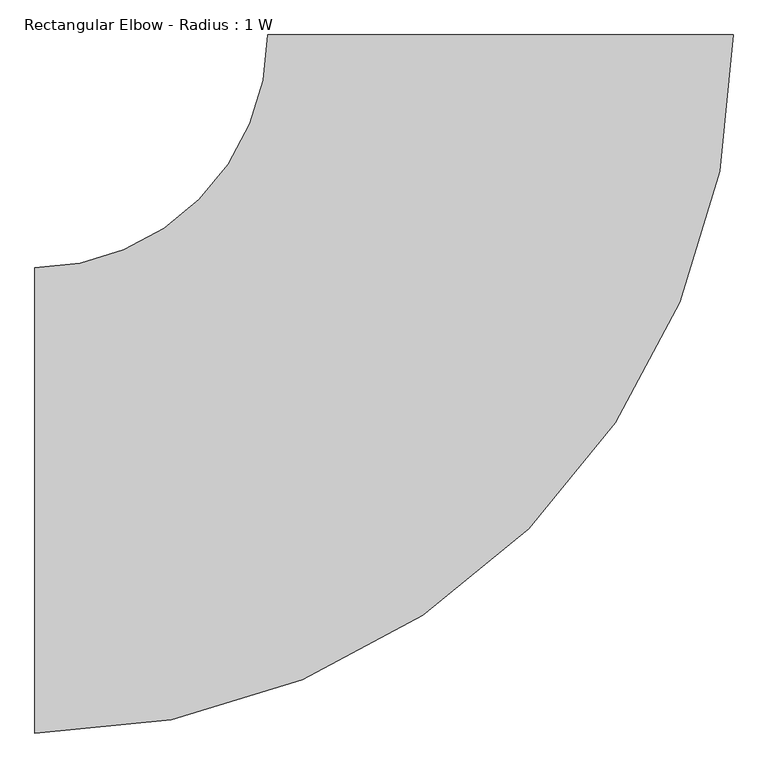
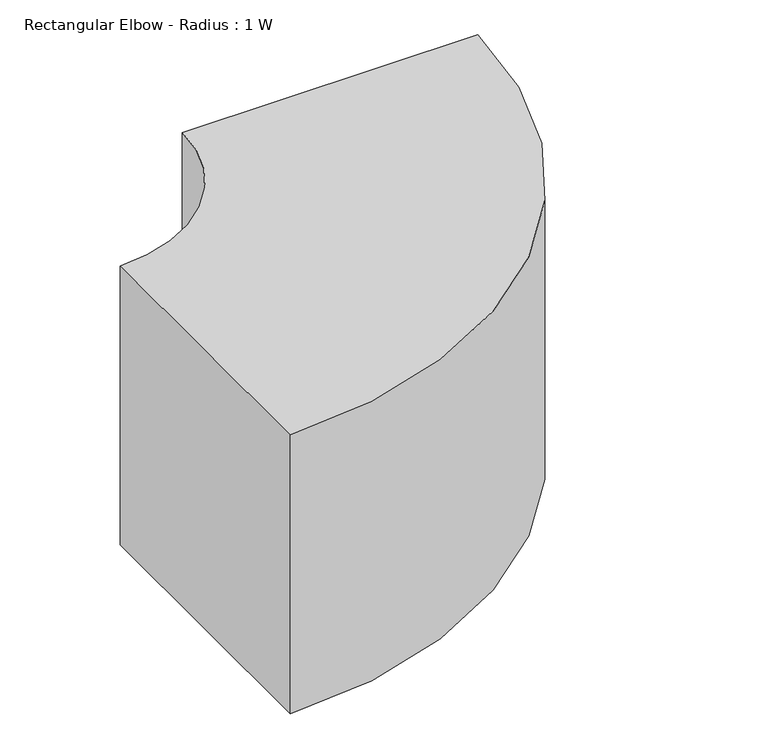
"""IFC4 building model written with IfcOpenShell, lengths in millimetres: duct fitting geometry, Rectangular Elbow - Radius : 1 W."""

from ifc_helpers import new_model, si_unit, point, frame, frame_2d, origin, place, context, project, spatial, polyline, circle_curve, trimmed, segment, composite_curve, outline, extrude, source, transform, mapped, element, save


def rectangular_elbow_radius_1_w_1d3ea4a4(model_context):
    return source(origin(), model_context, "Body", "SweptSolid", [
        extrude(outline(composite_curve([segment(trimmed(circle_curve(frame_2d((-914.4, 914.4)), 1371.6), [point((457.2, 914.4))], [point((-914.4, -457.2))], False, "CARTESIAN"), True, "CONTINUOUS"), segment(polyline([(-914.4, -457.2), (-914.4, 457.2)]), True, "CONTINUOUS"), segment(trimmed(circle_curve(frame_2d((-914.4, 914.4)), 457.2), [point((-914.4, 457.2))], [point((-457.2, 914.4))], True, "CARTESIAN"), True, "CONTINUOUS"), segment(polyline([(-457.2, 914.4), (457.2, 914.4)]), True, "CONTINUOUS")], self_intersect=False)), frame((0.0, 0.0, -457.2), z_axis=(0.0, 0.0, 1.0), x_axis=(1.0, 0.0, 0.0)), (0.0, 0.0, 1.0), 914.4),
    ])


if __name__ == "__main__":
    model = new_model("IFC4")
    model_context = context("Model", 3, world=origin())
    ifc_project = project(units=[si_unit("LENGTHUNIT", "METRE", prefix="MILLI")], contexts=[model_context])
    site = spatial("IfcSite", under=ifc_project)
    building = spatial("IfcBuilding", under=site)
    placement = place(None, origin())
    rectangular_elbow_radius_1_w_shape = rectangular_elbow_radius_1_w_1d3ea4a4(model_context)
    element("IfcDuctFitting", 1, ObjectType="Rectangular Elbow - Radius : 1 W", at=placement, inside=building, context=model_context, shape_type="MappedRepresentation", body=[
        mapped(rectangular_elbow_radius_1_w_shape, transform((0.0, 0.0, 0.0), x_axis=(1.0, 0.0, 0.0), y_axis=(0.0, 1.0, 0.0), z_axis=(0.0, 0.0, 1.0))),
    ])
    save(model, "model.ifc")
